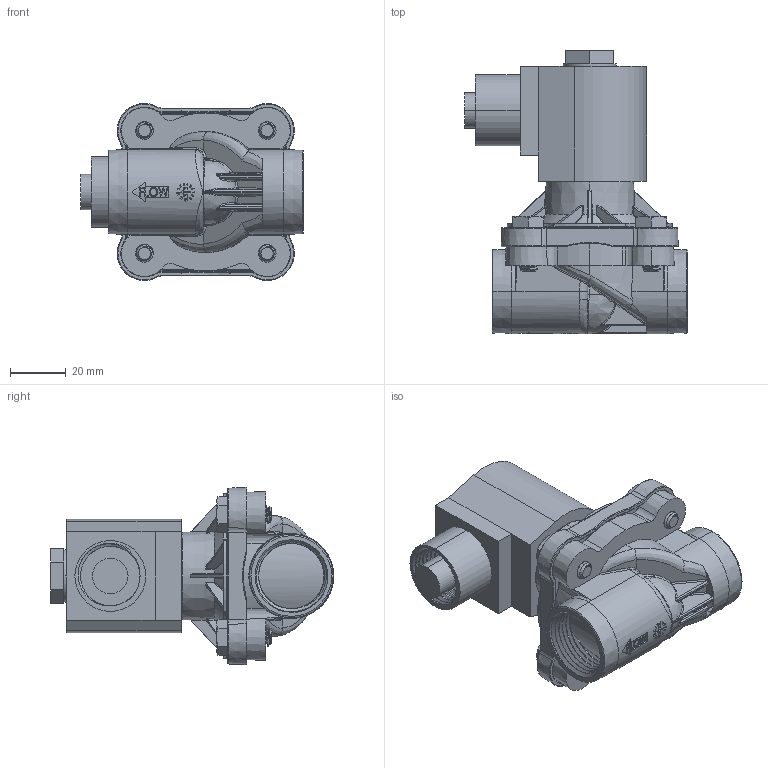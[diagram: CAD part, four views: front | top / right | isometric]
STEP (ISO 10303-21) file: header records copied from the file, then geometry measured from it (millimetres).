
FILE_DESCRIPTION (( 'STEP AP203' ), '1' );
FILE_NAME ('S201GxxxxPEG5.STEP', '2024-05-02T15:22:08', ( '' ), ( '' ), 'SwSTEP 2.0', 'SolidWorks 2023', '' );
FILE_SCHEMA (( 'CONFIG_CONTROL_DESIGN' ));
Length unit declared in the file: millimetre
Products named in the file (1): S201GxxxxPEG5
Bounding box: 79.88 x 101.58 x 63.5 mm (x, y, z)
Volume: 166482 mm3; surface area: 35785.9 mm2
Topology: 1 solids, 2 shells, 2085 faces, 5374 edges, 3255 vertices
Faces by surface type: bspline 903, plane 516, cylinder 260, torus 172, cone 149, sphere 85
Entity records: 108985 total; most frequent: CARTESIAN_POINT 66030, ORIENTED_EDGE 10522, DIRECTION 6608, EDGE_CURVE 5261, VERTEX_POINT 3252, AXIS2_PLACEMENT_3D 2421, EDGE_LOOP 2159, ADVANCED_FACE 2085
